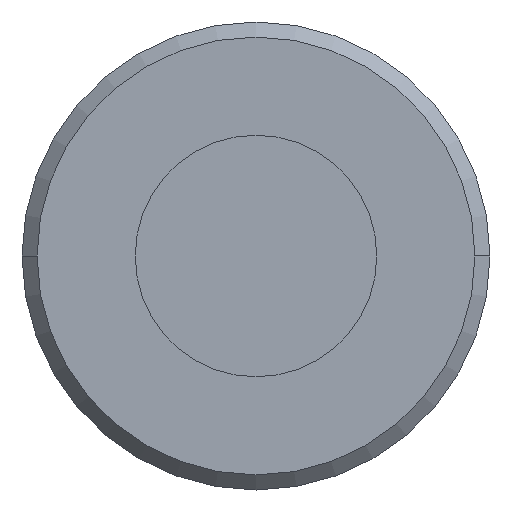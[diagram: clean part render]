
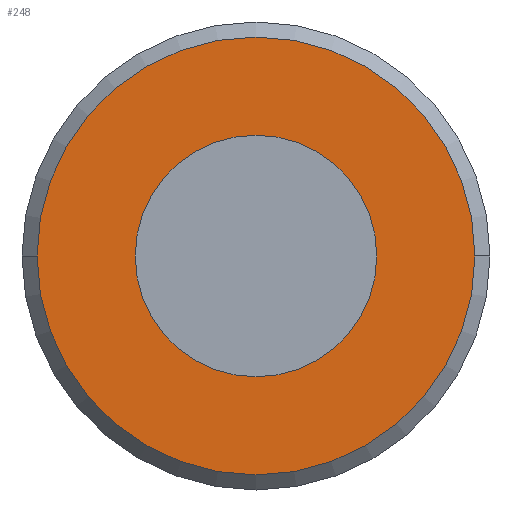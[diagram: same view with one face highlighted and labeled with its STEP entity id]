
A CAD part, left-side view. The second image highlights one B-rep face of the part: STEP entity #248.
In plain terms, the highlighted planar face has unit normal (-1, 0, 0).
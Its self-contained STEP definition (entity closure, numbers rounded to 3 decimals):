
#6 = VERTEX_POINT ( 'NONE', #441 ) ;
#25 = ORIENTED_EDGE ( 'NONE', *, *, #242, .T. ) ;
#27 = VERTEX_POINT ( 'NONE', #572 ) ;
#56 = DIRECTION ( 'NONE',  ( 1., 0., 0. ) ) ;
#91 = PLANE ( 'NONE',  #476 ) ;
#95 = CARTESIAN_POINT ( 'NONE',  ( -24.026, 0., 0. ) ) ;
#111 = CARTESIAN_POINT ( 'NONE',  ( -24.026, 8., 0. ) ) ;
#131 = DIRECTION ( 'NONE',  ( 1., 0., 0. ) ) ;
#150 = VERTEX_POINT ( 'NONE', #544 ) ;
#165 = CIRCLE ( 'NONE', #561, 8. ) ;
#171 = EDGE_CURVE ( 'NONE', #150, #388, #165, .T. ) ;
#223 = ORIENTED_EDGE ( 'NONE', *, *, #171, .T. ) ;
#227 = CARTESIAN_POINT ( 'NONE',  ( -24.026, 14.5, 0. ) ) ;
#242 = EDGE_CURVE ( 'NONE', #388, #150, #437, .T. ) ;
#246 = EDGE_LOOP ( 'NONE', ( #380, #387 ) ) ;
#248 = ADVANCED_FACE ( 'NONE', ( #278, #401 ), #91, .T. ) ;
#261 = CIRCLE ( 'NONE', #353, 14.5 ) ;
#278 = FACE_BOUND ( 'NONE', #433, .T. ) ;
#279 = AXIS2_PLACEMENT_3D ( 'NONE', #95, #56, #414 ) ;
#291 = CARTESIAN_POINT ( 'NONE',  ( -24.026, 0., 0. ) ) ;
#295 = CIRCLE ( 'NONE', #279, 14.5 ) ;
#305 = EDGE_CURVE ( 'NONE', #27, #6, #295, .T. ) ;
#314 = CARTESIAN_POINT ( 'NONE',  ( -24.026, 0., 0. ) ) ;
#320 = CARTESIAN_POINT ( 'NONE',  ( -24.026, 0., 0. ) ) ;
#349 = EDGE_CURVE ( 'NONE', #6, #27, #261, .T. ) ;
#353 = AXIS2_PLACEMENT_3D ( 'NONE', #291, #420, #517 ) ;
#380 = ORIENTED_EDGE ( 'NONE', *, *, #305, .F. ) ;
#387 = ORIENTED_EDGE ( 'NONE', *, *, #349, .F. ) ;
#388 = VERTEX_POINT ( 'NONE', #111 ) ;
#401 = FACE_OUTER_BOUND ( 'NONE', #246, .T. ) ;
#411 = DIRECTION ( 'NONE',  ( 0., 1., 0. ) ) ;
#414 = DIRECTION ( 'NONE',  ( 0., 1., 0. ) ) ;
#420 = DIRECTION ( 'NONE',  ( 1., 0., 0. ) ) ;
#433 = EDGE_LOOP ( 'NONE', ( #25, #223 ) ) ;
#437 = CIRCLE ( 'NONE', #530, 8. ) ;
#441 = CARTESIAN_POINT ( 'NONE',  ( -24.026, -14.5, 0. ) ) ;
#457 = DIRECTION ( 'NONE',  ( 0., -1., 0. ) ) ;
#476 = AXIS2_PLACEMENT_3D ( 'NONE', #227, #503, #457 ) ;
#495 = DIRECTION ( 'NONE',  ( 0., 1., 0. ) ) ;
#503 = DIRECTION ( 'NONE',  ( -1., 0., 0. ) ) ;
#517 = DIRECTION ( 'NONE',  ( 0., 1., 0. ) ) ;
#530 = AXIS2_PLACEMENT_3D ( 'NONE', #320, #554, #411 ) ;
#544 = CARTESIAN_POINT ( 'NONE',  ( -24.026, -8., 0. ) ) ;
#554 = DIRECTION ( 'NONE',  ( 1., 0., 0. ) ) ;
#561 = AXIS2_PLACEMENT_3D ( 'NONE', #314, #131, #495 ) ;
#572 = CARTESIAN_POINT ( 'NONE',  ( -24.026, 14.5, 0. ) ) ;
